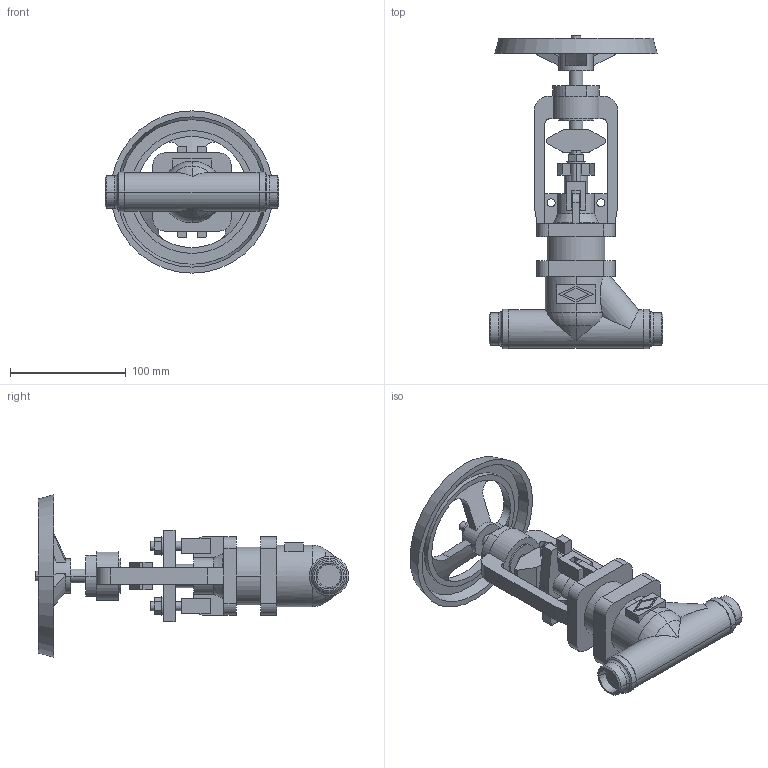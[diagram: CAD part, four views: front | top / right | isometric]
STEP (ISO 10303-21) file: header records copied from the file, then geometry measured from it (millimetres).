
FILE_DESCRIPTION(('OneSpaceDesigner STEP Export'),'2;1');
FILE_NAME('c000004309.stp','2010-05-06T 9:26:28',(''),(''),'OneSpace Designer STEP processor for AP214 (Solid Model)','OneSpace Modeling 15.50B 03-Nov-2007 (C) CoCreate Software GmbH','');
FILE_SCHEMA(('AUTOMOTIVE_DESIGN { 1 0 10303 214 1 1 1 1 }'));
Length unit declared in the file: millimetre
Products named in the file (1): 1
Bounding box: 150 x 270.4 x 140 mm (x, y, z)
Volume: 603501.1 mm3; surface area: 118467.5 mm2
Topology: 1 solids, 1 shells, 279 faces, 718 edges, 465 vertices
Faces by surface type: plane 147, cylinder 86, cone 34, torus 12
Entity records: 10563 total; most frequent: CARTESIAN_POINT 1839, ORIENTED_EDGE 1436, DIRECTION 1225, EDGE_CURVE 718, VERTEX_POINT 465, VECTOR 425, LINE 425, AXIS2_PLACEMENT_3D 400
